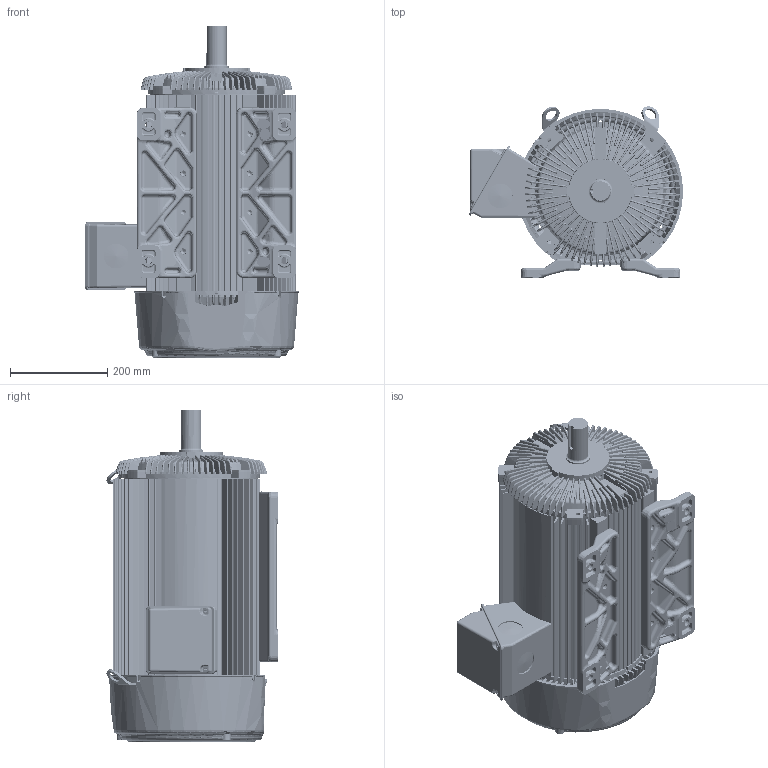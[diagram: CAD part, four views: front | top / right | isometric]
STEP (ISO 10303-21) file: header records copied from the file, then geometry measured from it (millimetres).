
FILE_DESCRIPTION((''),'2;1');
FILE_NAME('STD_LONG_NON_FLNG_ASM','2014-07-01T',('EMD2341'),('Nidec Motor Corporation'),'PRO/ENGINEER BY PARAMETRIC TECHNOLOGY CORPORATION, 2013150','PRO/ENGINEER BY PARAMETRIC TECHNOLOGY CORPORATION, 2013150','');
FILE_SCHEMA(('CONFIG_CONTROL_DESIGN'));
Length unit declared in the file: inch
Products named in the file (15): 0367969_AF0; 0372589-BKT_AF0; 0378229_AF0; 1001040-OP13_ASM; 0375099-BKT_AF0; 0360239_AF0; 1001042-OP19_ASM; 0183520; 0369703; 0364285; 0369733; 0364282-OBB; 0364292; 0368171; STD_LONG_NON_FLNG_ASM
Assembly tree (16 placements, depth 3):
  STD_LONG_NON_FLNG_ASM
    0367969_AF0
    1001040-OP13_ASM
      0372589-BKT_AF0
      0378229_AF0
    1001042-OP19_ASM
      0375099-BKT_AF0
      0360239_AF0
    0183520
    0369703
    0364285
    0369733  x2
    0364282-OBB
    0364292
    0368171  x2
Bounding box: 440.71 x 351.71 x 682.83 mm (x, y, z)
Volume: 9784732.5 mm3; surface area: 3335212.7 mm2
Topology: 16 solids, 16 shells, 7423 faces, 18582 edges, 11135 vertices
Faces by surface type: bspline 3022, plane 1749, cylinder 1210, cone 732, torus 510, sphere 176, extrusion 24
Entity records: 309403 total; most frequent: CARTESIAN_POINT 166792, ORIENTED_EDGE 34328, DIRECTION 22579, EDGE_CURVE 17164, VERTEX_POINT 10356, AXIS2_PLACEMENT_3D 8571, B_SPLINE_CURVE_WITH_KNOTS 7242, EDGE_LOOP 7026
